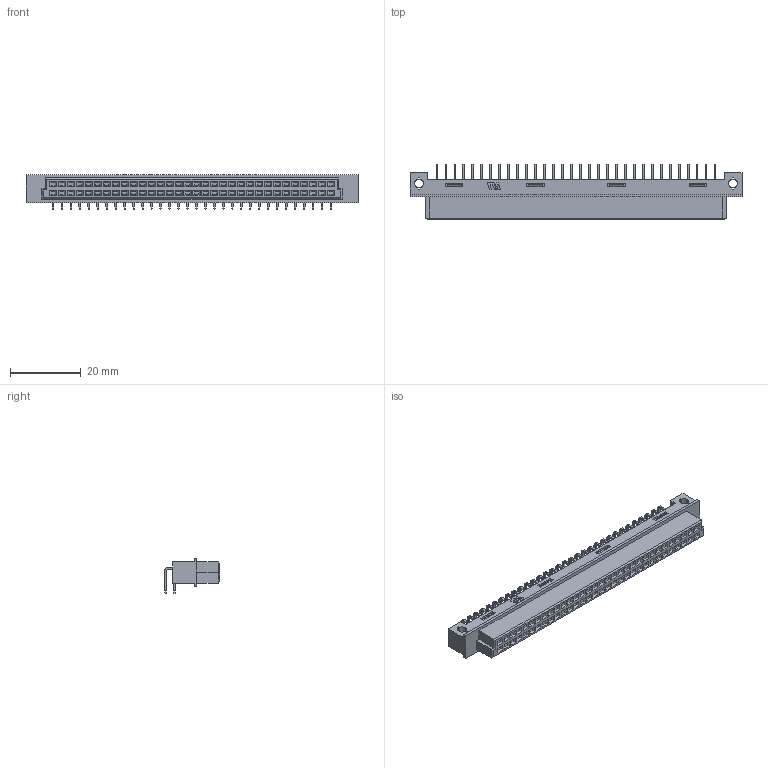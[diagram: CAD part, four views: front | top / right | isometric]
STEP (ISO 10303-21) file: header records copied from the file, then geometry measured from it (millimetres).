
FILE_DESCRIPTION (( 'STEP AP203' ), '1' );
FILE_NAME ('9001-34641C00A.STEP', '2018-06-07T05:41:46', ( '' ), ( '' ), 'SwSTEP 2.0', 'SolidWorks 2011', '' );
FILE_SCHEMA (( 'CONFIG_CONTROL_DESIGN' ));
Length unit declared in the file: millimetre
Products named in the file (1): 9001-34641C00A
Bounding box: 94 x 15.57 x 9.85 mm (x, y, z)
Volume: 6178.1 mm3; surface area: 5652 mm2
Topology: 1 solids, 1 shells, 1309 faces, 3266 edges, 2084 vertices
Faces by surface type: plane 1159, cylinder 150
Entity records: 38177 total; most frequent: CARTESIAN_POINT 6660, ORIENTED_EDGE 6532, DIRECTION 6186, EDGE_CURVE 3266, LINE 2966, VECTOR 2966, VERTEX_POINT 2084, AXIS2_PLACEMENT_3D 1610
